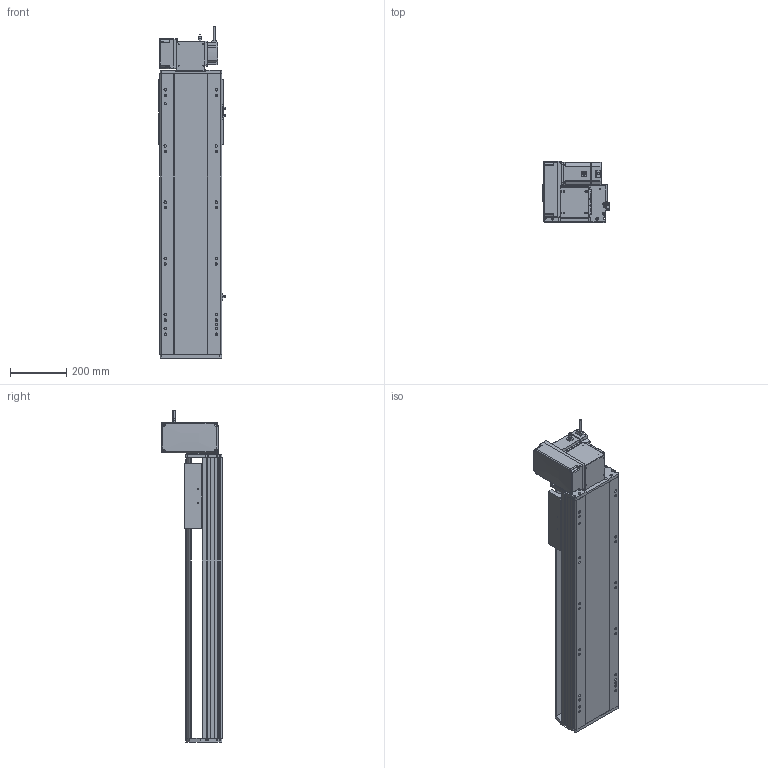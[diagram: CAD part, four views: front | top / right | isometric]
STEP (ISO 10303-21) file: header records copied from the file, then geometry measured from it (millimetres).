
FILE_DESCRIPTION (( 'STEP AP214' ), '1' );
FILE_NAME ('RTB22S-XX-650-LW-M75-C4.STEP', '2025-12-12T05:53:08', ( '' ), ( '' ), 'SwSTEP 2.0', 'SolidWorks 2018', '' );
FILE_SCHEMA (( 'AUTOMOTIVE_DESIGN' ));
Length unit declared in the file: millimetre
Products named in the file (14): RTB22S-GY-001耜裔^RTB22S-XX-XX-LW-M75-C4; RTB22S-GY-005P^RTB22S-LW-々湍釱蚾饜_RTB22S-XX-XX-LW-M75-C4; RTB22S-GY-017P^RTB22S-LW-々湍釱蚾饜_RTB22S-XX-XX-LW-M75-C4; RTB22S-XX-650-LW-M75-C4; RTB22S-GY-008-M75--萇儂啣^RTB22S-LW-々湍釱蚾饜_RTB22S-XX-XX-LW-M75-C4; RTB22S-L-004賑釱^RTB22S-XX-XX-LW-M75-C4; RTB22S-LW-々湍釱蚾饜^RTB22S-XX-XX-LW-M75-C4; RTB22S-GY-014--々湍釱^RTB22S-LW-々湍釱蚾饜_RTB22S-XX-XX-LW-M75-C4; RTB22S-L-011菁釱^RTB22S-XX-XX-LW-M75-C4; RTB22S-GY-007奻裔^RTB22S-XX-XX-LW-M75-C4; RTB22S-GY-018P^RTB22S-LW-々湍釱蚾饜_RTB22S-XX-XX-LW-M75-C4; OMRON EE-SX672 传感器^RTB22S-XX-XX-LW-M75-C4; RTH22-GY-013外置感应片^RTB22S-XX-XX-LW-M75-C4; 750W萇儂^RTB22S-XX-XX-LW-M75-C4
Assembly tree (16 placements, depth 3):
  RTB22S-XX-650-LW-M75-C4
    RTB22S-L-011菁釱^RTB22S-XX-XX-LW-M75-C4
    RTB22S-GY-001耜裔^RTB22S-XX-XX-LW-M75-C4
    750W萇儂^RTB22S-XX-XX-LW-M75-C4
    RTB22S-GY-007奻裔^RTB22S-XX-XX-LW-M75-C4
    RTB22S-L-004賑釱^RTB22S-XX-XX-LW-M75-C4
    RTH22-GY-013外置感应片^RTB22S-XX-XX-LW-M75-C4
    OMRON EE-SX672 传感器^RTB22S-XX-XX-LW-M75-C4  x3
    RTB22S-LW-々湍釱蚾饜^RTB22S-XX-XX-LW-M75-C4
      RTB22S-GY-014--々湍釱^RTB22S-LW-々湍釱蚾饜_RTB22S-XX-XX-LW-M75-C4
      RTB22S-GY-017P^RTB22S-LW-々湍釱蚾饜_RTB22S-XX-XX-LW-M75-C4  x2
      RTB22S-GY-005P^RTB22S-LW-々湍釱蚾饜_RTB22S-XX-XX-LW-M75-C4
      RTB22S-GY-008-M75--萇儂啣^RTB22S-LW-々湍釱蚾饜_RTB22S-XX-XX-LW-M75-C4
      RTB22S-GY-018P^RTB22S-LW-々湍釱蚾饜_RTB22S-XX-XX-LW-M75-C4
Bounding box: 238.5 x 215.5 x 1182.2 mm (x, y, z)
Volume: 17207908 mm3; surface area: 1809737.5 mm2
Topology: 15 solids, 15 shells, 1947 faces, 5286 edges, 3392 vertices
Faces by surface type: plane 911, cylinder 598, bspline 296, cone 130, sphere 8, torus 4
Entity records: 51452 total; most frequent: CARTESIAN_POINT 14876, ORIENTED_EDGE 7376, DIRECTION 7062, EDGE_CURVE 3688, AXIS2_PLACEMENT_3D 2478, VERTEX_POINT 2396, LINE 2106, VECTOR 2106
